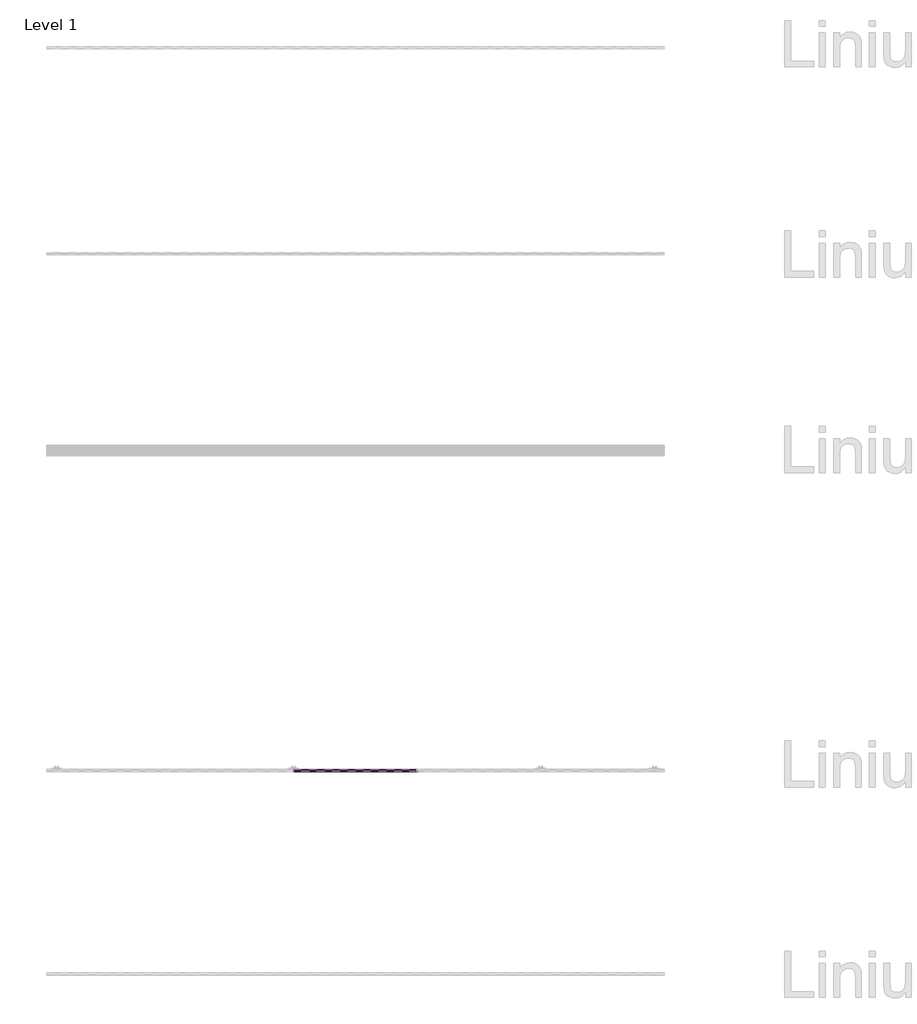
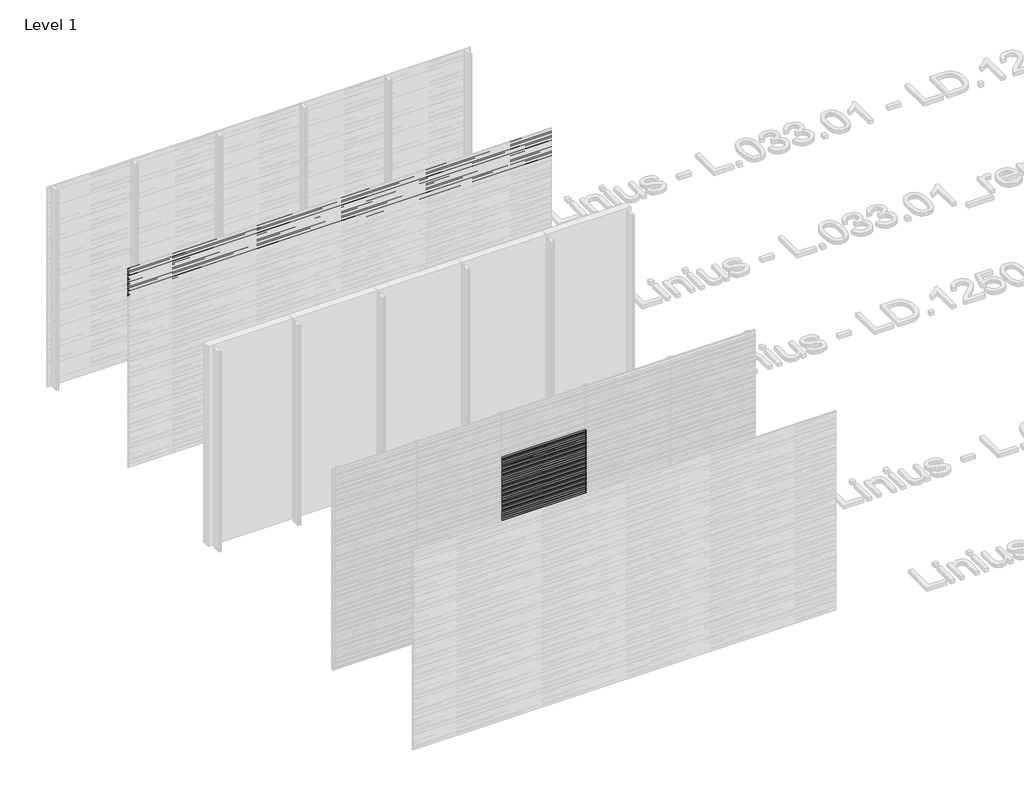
# One storey, part 15 of 507: 84 proxies.
"""IFC4 building model written with IfcOpenShell, lengths in millimetres."""

from ifc_helpers import new_model, si_unit, frame, origin, place, context, project, spatial, polyline, outline, extrude, element, save

model = new_model("IFC4")

# Units and contexts
model_context = context("Model", 3, world=origin())
ifc_project = project(units=[si_unit("LENGTHUNIT", "METRE", prefix="MILLI")], contexts=[model_context])

# Site, building, storey
site = spatial("IfcSite", under=ifc_project)
building = spatial("IfcBuilding", under=site)
storey = spatial("IfcBuildingStorey", under=building, Name="Level 1", Elevation=0.0)

# Proxies
placement = place(None, origin())
element("IfcBuildingElementProxy", 1, Name="Wall Sweeps", at=placement, inside=storey, context=model_context, shape_type="SweptSolid", body=[
    extrude(outline(polyline([(12003.4540136, 2973.0), (12003.4540136, 2959.5), (12002.2040136, 2960.2216933), (12002.2040136, 2972.2782281), (11983.0540136, 2983.3345698), (11983.0540136, 2997.0), (11984.3040136, 2997.0), (11984.3040136, 2984.0562577), (12003.4540136, 2973.0)])), frame((44966.6208097, 0.0, 0.0), z_axis=(1.0, 0.0, 0.0), x_axis=(0.0, 1.0, 0.0)), (0.0, 0.0, 1.0), 6000.0),
])
element("IfcBuildingElementProxy", 2, Name="Wall Sweeps", at=placement, inside=storey, context=model_context, shape_type="SweptSolid", body=[
    extrude(outline(polyline([(12003.4540136, 2939.7), (12003.4540136, 2926.2), (12002.2040136, 2926.9216933), (12002.2040136, 2938.9782281), (11983.0540136, 2950.0345698), (11983.0540136, 2963.7), (11984.3040136, 2963.7), (11984.3040136, 2950.7562577), (12003.4540136, 2939.7)])), frame((44966.6208097, 0.0, 0.0), z_axis=(1.0, 0.0, 0.0), x_axis=(0.0, 1.0, 0.0)), (0.0, 0.0, 1.0), 6000.0),
])
element("IfcBuildingElementProxy", 3, Name="Wall Sweeps", at=placement, inside=storey, context=model_context, shape_type="SweptSolid", body=[
    extrude(outline(polyline([(12003.4540136, 2906.4), (12003.4540136, 2892.9), (12002.2040136, 2893.6216933), (12002.2040136, 2905.6782281), (11983.0540136, 2916.7345698), (11983.0540136, 2930.4), (11984.3040136, 2930.4), (11984.3040136, 2917.4562577), (12003.4540136, 2906.4)])), frame((44966.6208097, 0.0, 0.0), z_axis=(1.0, 0.0, 0.0), x_axis=(0.0, 1.0, 0.0)), (0.0, 0.0, 1.0), 6000.0),
])
element("IfcBuildingElementProxy", 4, Name="Wall Sweeps", at=placement, inside=storey, context=model_context, shape_type="SweptSolid", body=[
    extrude(outline(polyline([(12003.4540136, 2873.1), (12003.4540136, 2859.6), (12002.2040136, 2860.3216933), (12002.2040136, 2872.3782281), (11983.0540136, 2883.4345698), (11983.0540136, 2897.1), (11984.3040136, 2897.1), (11984.3040136, 2884.1562577), (12003.4540136, 2873.1)])), frame((44966.6208097, 0.0, 0.0), z_axis=(1.0, 0.0, 0.0), x_axis=(0.0, 1.0, 0.0)), (0.0, 0.0, 1.0), 6000.0),
])
element("IfcBuildingElementProxy", 5, Name="Wall Sweeps", at=placement, inside=storey, context=model_context, shape_type="SweptSolid", body=[
    extrude(outline(polyline([(12003.4540136, 2839.8), (12003.4540136, 2826.3), (12002.2040136, 2827.0216933), (12002.2040136, 2839.0782281), (11983.0540136, 2850.1345698), (11983.0540136, 2863.8), (11984.3040136, 2863.8), (11984.3040136, 2850.8562577), (12003.4540136, 2839.8)])), frame((44966.6208097, 0.0, 0.0), z_axis=(1.0, 0.0, 0.0), x_axis=(0.0, 1.0, 0.0)), (0.0, 0.0, 1.0), 6000.0),
])
element("IfcBuildingElementProxy", 6, Name="Wall Sweeps", at=placement, inside=storey, context=model_context, shape_type="SweptSolid", body=[
    extrude(outline(polyline([(12003.4540136, 2806.5), (12003.4540136, 2793.0), (12002.2040136, 2793.7216933), (12002.2040136, 2805.7782281), (11983.0540136, 2816.8345698), (11983.0540136, 2830.5), (11984.3040136, 2830.5), (11984.3040136, 2817.5562577), (12003.4540136, 2806.5)])), frame((44966.6208097, 0.0, 0.0), z_axis=(1.0, 0.0, 0.0), x_axis=(0.0, 1.0, 0.0)), (0.0, 0.0, 1.0), 6000.0),
])
element("IfcBuildingElementProxy", 7, Name="Wall Sweeps", at=placement, inside=storey, context=model_context, shape_type="SweptSolid", body=[
    extrude(outline(polyline([(12003.4540136, 2773.2), (12003.4540136, 2759.7), (12002.2040136, 2760.4216933), (12002.2040136, 2772.4782281), (11983.0540136, 2783.5345698), (11983.0540136, 2797.2), (11984.3040136, 2797.2), (11984.3040136, 2784.2562577), (12003.4540136, 2773.2)])), frame((44966.6208097, 0.0, 0.0), z_axis=(1.0, 0.0, 0.0), x_axis=(0.0, 1.0, 0.0)), (0.0, 0.0, 1.0), 6000.0),
])
element("IfcBuildingElementProxy", 8, Name="Wall Sweeps", at=placement, inside=storey, context=model_context, shape_type="SweptSolid", body=[
    extrude(outline(polyline([(12003.4540136, 2739.9), (12003.4540136, 2726.4), (12002.2040136, 2727.1216933), (12002.2040136, 2739.1782281), (11983.0540136, 2750.2345698), (11983.0540136, 2763.9), (11984.3040136, 2763.9), (11984.3040136, 2750.9562577), (12003.4540136, 2739.9)])), frame((44966.6208097, 0.0, 0.0), z_axis=(1.0, 0.0, 0.0), x_axis=(0.0, 1.0, 0.0)), (0.0, 0.0, 1.0), 6000.0),
])
element("IfcBuildingElementProxy", 9, Name="Wall Sweeps", at=placement, inside=storey, context=model_context, shape_type="SweptSolid", body=[
    extrude(outline(polyline([(12003.4540136, 2706.6), (12003.4540136, 2693.1), (12002.2040136, 2693.8216933), (12002.2040136, 2705.8782281), (11983.0540136, 2716.9345698), (11983.0540136, 2730.6), (11984.3040136, 2730.6), (11984.3040136, 2717.6562577), (12003.4540136, 2706.6)])), frame((44966.6208097, 0.0, 0.0), z_axis=(1.0, 0.0, 0.0), x_axis=(0.0, 1.0, 0.0)), (0.0, 0.0, 1.0), 6000.0),
])
element("IfcBuildingElementProxy", 10, Name="Wall Sweeps", at=placement, inside=storey, context=model_context, shape_type="SweptSolid", body=[
    extrude(outline(polyline([(12003.4540136, 2673.3), (12003.4540136, 2659.8), (12002.2040136, 2660.5216933), (12002.2040136, 2672.5782281), (11983.0540136, 2683.6345698), (11983.0540136, 2697.3), (11984.3040136, 2697.3), (11984.3040136, 2684.3562577), (12003.4540136, 2673.3)])), frame((44966.6208097, 0.0, 0.0), z_axis=(1.0, 0.0, 0.0), x_axis=(0.0, 1.0, 0.0)), (0.0, 0.0, 1.0), 6000.0),
])
element("IfcBuildingElementProxy", 11, Name="Wall Sweeps", at=placement, inside=storey, context=model_context, shape_type="SweptSolid", body=[
    extrude(outline(polyline([(12003.4540136, 2640.0), (12003.4540136, 2626.5), (12002.2040136, 2627.2216933), (12002.2040136, 2639.2782281), (11983.0540136, 2650.3345698), (11983.0540136, 2664.0), (11984.3040136, 2664.0), (11984.3040136, 2651.0562577), (12003.4540136, 2640.0)])), frame((44966.6208097, 0.0, 0.0), z_axis=(1.0, 0.0, 0.0), x_axis=(0.0, 1.0, 0.0)), (0.0, 0.0, 1.0), 6000.0),
])
element("IfcBuildingElementProxy", 12, Name="Wall Sweeps", at=placement, inside=storey, context=model_context, shape_type="SweptSolid", body=[
    extrude(outline(polyline([(12003.4540136, 2606.7), (12003.4540136, 2593.2), (12002.2040136, 2593.9216933), (12002.2040136, 2605.9782281), (11983.0540136, 2617.0345698), (11983.0540136, 2630.7), (11984.3040136, 2630.7), (11984.3040136, 2617.7562577), (12003.4540136, 2606.7)])), frame((44966.6208097, 0.0, 0.0), z_axis=(1.0, 0.0, 0.0), x_axis=(0.0, 1.0, 0.0)), (0.0, 0.0, 1.0), 6000.0),
])
element("IfcBuildingElementProxy", 13, Name="Wall Sweeps", at=placement, inside=storey, context=model_context, shape_type="SweptSolid", body=[
    extrude(outline(polyline([(12003.4540136, 2573.4), (12003.4540136, 2559.9), (12002.2040136, 2560.6216933), (12002.2040136, 2572.6782281), (11983.0540136, 2583.7345698), (11983.0540136, 2597.4), (11984.3040136, 2597.4), (11984.3040136, 2584.4562577), (12003.4540136, 2573.4)])), frame((44966.6208097, 0.0, 0.0), z_axis=(1.0, 0.0, 0.0), x_axis=(0.0, 1.0, 0.0)), (0.0, 0.0, 1.0), 6000.0),
])
element("IfcBuildingElementProxy", 14, Name="Wall Sweeps", at=placement, inside=storey, context=model_context, shape_type="SweptSolid", body=[
    extrude(outline(polyline([(6962.6270068, 2340.3), (6981.7770068, 2351.3562577), (6981.7770068, 2364.3), (6983.0270068, 2364.3), (6983.0270068, 2350.6345698), (6963.8770068, 2339.5782281), (6963.8770068, 2327.5216933), (6962.6270068, 2326.8), (6962.6270068, 2340.3)])), frame((47366.6208097, 0.0, 0.0), z_axis=(1.0, 0.0, 0.0), x_axis=(0.0, 1.0, 0.0)), (0.0, 0.0, 1.0), 1199.9999999),
])
element("IfcBuildingElementProxy", 15, Name="Wall Sweeps", at=placement, inside=storey, context=model_context, shape_type="SweptSolid", body=[
    extrude(outline(polyline([(6962.6270068, 2307.0), (6981.7770068, 2318.0562577), (6981.7770068, 2331.0), (6983.0270068, 2331.0), (6983.0270068, 2317.3345698), (6963.8770068, 2306.2782281), (6963.8770068, 2294.2216933), (6962.6270068, 2293.5), (6962.6270068, 2307.0)])), frame((47366.6208097, 0.0, 0.0), z_axis=(1.0, 0.0, 0.0), x_axis=(0.0, 1.0, 0.0)), (0.0, 0.0, 1.0), 1199.9999999),
])
element("IfcBuildingElementProxy", 16, Name="Wall Sweeps", at=placement, inside=storey, context=model_context, shape_type="SweptSolid", body=[
    extrude(outline(polyline([(6962.6270068, 2273.7), (6981.7770068, 2284.7562577), (6981.7770068, 2297.7), (6983.0270068, 2297.7), (6983.0270068, 2284.0345698), (6963.8770068, 2272.9782281), (6963.8770068, 2260.9216933), (6962.6270068, 2260.2), (6962.6270068, 2273.7)])), frame((47366.6208097, 0.0, 0.0), z_axis=(1.0, 0.0, 0.0), x_axis=(0.0, 1.0, 0.0)), (0.0, 0.0, 1.0), 1199.9999999),
])
element("IfcBuildingElementProxy", 17, Name="Wall Sweeps", at=placement, inside=storey, context=model_context, shape_type="SweptSolid", body=[
    extrude(outline(polyline([(6962.6270068, 2240.4), (6981.7770068, 2251.4562577), (6981.7770068, 2264.4), (6983.0270068, 2264.4), (6983.0270068, 2250.7345698), (6963.8770068, 2239.6782281), (6963.8770068, 2227.6216933), (6962.6270068, 2226.9), (6962.6270068, 2240.4)])), frame((47366.6208097, 0.0, 0.0), z_axis=(1.0, 0.0, 0.0), x_axis=(0.0, 1.0, 0.0)), (0.0, 0.0, 1.0), 1199.9999999),
])
element("IfcBuildingElementProxy", 18, Name="Wall Sweeps", at=placement, inside=storey, context=model_context, shape_type="SweptSolid", body=[
    extrude(outline(polyline([(6962.6270068, 2207.1), (6981.7770068, 2218.1562577), (6981.7770068, 2231.1), (6983.0270068, 2231.1), (6983.0270068, 2217.4345698), (6963.8770068, 2206.3782281), (6963.8770068, 2194.3216933), (6962.6270068, 2193.6), (6962.6270068, 2207.1)])), frame((47366.6208097, 0.0, 0.0), z_axis=(1.0, 0.0, 0.0), x_axis=(0.0, 1.0, 0.0)), (0.0, 0.0, 1.0), 1199.9999999),
])
element("IfcBuildingElementProxy", 19, Name="Wall Sweeps", at=placement, inside=storey, context=model_context, shape_type="SweptSolid", body=[
    extrude(outline(polyline([(6962.6270068, 2173.8), (6981.7770068, 2184.8562577), (6981.7770068, 2197.8), (6983.0270068, 2197.8), (6983.0270068, 2184.1345698), (6963.8770068, 2173.0782281), (6963.8770068, 2161.0216933), (6962.6270068, 2160.3), (6962.6270068, 2173.8)])), frame((47366.6208097, 0.0, 0.0), z_axis=(1.0, 0.0, 0.0), x_axis=(0.0, 1.0, 0.0)), (0.0, 0.0, 1.0), 1199.9999999),
])
element("IfcBuildingElementProxy", 20, Name="Wall Sweeps", at=placement, inside=storey, context=model_context, shape_type="SweptSolid", body=[
    extrude(outline(polyline([(6962.6270068, 2140.5), (6981.7770068, 2151.5562577), (6981.7770068, 2164.5), (6983.0270068, 2164.5), (6983.0270068, 2150.8345698), (6963.8770068, 2139.7782281), (6963.8770068, 2127.7216933), (6962.6270068, 2127.0), (6962.6270068, 2140.5)])), frame((47366.6208097, 0.0, 0.0), z_axis=(1.0, 0.0, 0.0), x_axis=(0.0, 1.0, 0.0)), (0.0, 0.0, 1.0), 1199.9999999),
])
element("IfcBuildingElementProxy", 21, Name="Wall Sweeps", at=placement, inside=storey, context=model_context, shape_type="SweptSolid", body=[
    extrude(outline(polyline([(6962.6270068, 2107.2), (6981.7770068, 2118.2562577), (6981.7770068, 2131.2), (6983.0270068, 2131.2), (6983.0270068, 2117.5345698), (6963.8770068, 2106.4782281), (6963.8770068, 2094.4216933), (6962.6270068, 2093.7), (6962.6270068, 2107.2)])), frame((47366.6208097, 0.0, 0.0), z_axis=(1.0, 0.0, 0.0), x_axis=(0.0, 1.0, 0.0)), (0.0, 0.0, 1.0), 1199.9999999),
])
element("IfcBuildingElementProxy", 22, Name="Wall Sweeps", at=placement, inside=storey, context=model_context, shape_type="SweptSolid", body=[
    extrude(outline(polyline([(6962.6270068, 2073.9), (6981.7770068, 2084.9562577), (6981.7770068, 2097.9), (6983.0270068, 2097.9), (6983.0270068, 2084.2345698), (6963.8770068, 2073.1782281), (6963.8770068, 2061.1216933), (6962.6270068, 2060.4), (6962.6270068, 2073.9)])), frame((47366.6208097, 0.0, 0.0), z_axis=(1.0, 0.0, 0.0), x_axis=(0.0, 1.0, 0.0)), (0.0, 0.0, 1.0), 1199.9999999),
])
element("IfcBuildingElementProxy", 23, Name="Wall Sweeps", at=placement, inside=storey, context=model_context, shape_type="SweptSolid", body=[
    extrude(outline(polyline([(6962.6270068, 2040.6), (6981.7770068, 2051.6562577), (6981.7770068, 2064.6), (6983.0270068, 2064.6), (6983.0270068, 2050.9345698), (6963.8770068, 2039.8782281), (6963.8770068, 2027.8216933), (6962.6270068, 2027.1), (6962.6270068, 2040.6)])), frame((47366.6208097, 0.0, 0.0), z_axis=(1.0, 0.0, 0.0), x_axis=(0.0, 1.0, 0.0)), (0.0, 0.0, 1.0), 1199.9999999),
])
element("IfcBuildingElementProxy", 24, Name="Wall Sweeps", at=placement, inside=storey, context=model_context, shape_type="SweptSolid", body=[
    extrude(outline(polyline([(6962.6270068, 2007.3), (6981.7770068, 2018.3562577), (6981.7770068, 2031.3), (6983.0270068, 2031.3), (6983.0270068, 2017.6345698), (6963.8770068, 2006.5782281), (6963.8770068, 1994.5216933), (6962.6270068, 1993.8), (6962.6270068, 2007.3)])), frame((47366.6208097, 0.0, 0.0), z_axis=(1.0, 0.0, 0.0), x_axis=(0.0, 1.0, 0.0)), (0.0, 0.0, 1.0), 1199.9999999),
])
element("IfcBuildingElementProxy", 25, Name="Wall Sweeps", at=placement, inside=storey, context=model_context, shape_type="SweptSolid", body=[
    extrude(outline(polyline([(6962.6270068, 1974.0), (6981.7770068, 1985.0562577), (6981.7770068, 1998.0), (6983.0270068, 1998.0), (6983.0270068, 1984.3345698), (6963.8770068, 1973.2782281), (6963.8770068, 1961.2216933), (6962.6270068, 1960.5), (6962.6270068, 1974.0)])), frame((47366.6208097, 0.0, 0.0), z_axis=(1.0, 0.0, 0.0), x_axis=(0.0, 1.0, 0.0)), (0.0, 0.0, 1.0), 1199.9999999),
])
element("IfcBuildingElementProxy", 26, Name="Wall Sweeps", at=placement, inside=storey, context=model_context, shape_type="SweptSolid", body=[
    extrude(outline(polyline([(6962.6270068, 1940.7), (6981.7770068, 1951.7562577), (6981.7770068, 1964.7), (6983.0270068, 1964.7), (6983.0270068, 1951.0345698), (6963.8770068, 1939.9782281), (6963.8770068, 1927.9216933), (6962.6270068, 1927.2), (6962.6270068, 1940.7)])), frame((47366.6208097, 0.0, 0.0), z_axis=(1.0, 0.0, 0.0), x_axis=(0.0, 1.0, 0.0)), (0.0, 0.0, 1.0), 1199.9999999),
])
element("IfcBuildingElementProxy", 27, Name="Wall Sweeps", at=placement, inside=storey, context=model_context, shape_type="SweptSolid", body=[
    extrude(outline(polyline([(6962.6270068, 1907.4), (6981.7770068, 1918.4562577), (6981.7770068, 1931.4), (6983.0270068, 1931.4), (6983.0270068, 1917.7345698), (6963.8770068, 1906.6782281), (6963.8770068, 1894.6216933), (6962.6270068, 1893.9), (6962.6270068, 1907.4)])), frame((47366.6208097, 0.0, 0.0), z_axis=(1.0, 0.0, 0.0), x_axis=(0.0, 1.0, 0.0)), (0.0, 0.0, 1.0), 1199.9999999),
])
element("IfcBuildingElementProxy", 28, Name="Wall Sweeps", at=placement, inside=storey, context=model_context, shape_type="SweptSolid", body=[
    extrude(outline(polyline([(6962.6270068, 1874.1), (6981.7770068, 1885.1562577), (6981.7770068, 1898.1), (6983.0270068, 1898.1), (6983.0270068, 1884.4345698), (6963.8770068, 1873.3782281), (6963.8770068, 1861.3216933), (6962.6270068, 1860.6), (6962.6270068, 1874.1)])), frame((47366.6208097, 0.0, 0.0), z_axis=(1.0, 0.0, 0.0), x_axis=(0.0, 1.0, 0.0)), (0.0, 0.0, 1.0), 1199.9999999),
])
element("IfcBuildingElementProxy", 29, Name="Wall Sweeps", at=placement, inside=storey, context=model_context, shape_type="SweptSolid", body=[
    extrude(outline(polyline([(6962.6270068, 1840.8), (6981.7770068, 1851.8562577), (6981.7770068, 1864.8), (6983.0270068, 1864.8), (6983.0270068, 1851.1345698), (6963.8770068, 1840.0782281), (6963.8770068, 1828.0216933), (6962.6270068, 1827.3), (6962.6270068, 1840.8)])), frame((47366.6208097, 0.0, 0.0), z_axis=(1.0, 0.0, 0.0), x_axis=(0.0, 1.0, 0.0)), (0.0, 0.0, 1.0), 1199.9999999),
])
element("IfcBuildingElementProxy", 30, Name="Wall Sweeps", at=placement, inside=storey, context=model_context, shape_type="SweptSolid", body=[
    extrude(outline(polyline([(6962.6270068, 1807.5), (6981.7770068, 1818.5562577), (6981.7770068, 1831.5), (6983.0270068, 1831.5), (6983.0270068, 1817.8345698), (6963.8770068, 1806.7782281), (6963.8770068, 1794.7216933), (6962.6270068, 1794.0), (6962.6270068, 1807.5)])), frame((47366.6208097, 0.0, 0.0), z_axis=(1.0, 0.0, 0.0), x_axis=(0.0, 1.0, 0.0)), (0.0, 0.0, 1.0), 1199.9999999),
])
element("IfcBuildingElementProxy", 31, Name="Wall Sweeps", at=placement, inside=storey, context=model_context, shape_type="SweptSolid", body=[
    extrude(outline(polyline([(6962.6270068, 1774.2), (6981.7770068, 1785.2562577), (6981.7770068, 1798.2), (6983.0270068, 1798.2), (6983.0270068, 1784.5345698), (6963.8770068, 1773.4782281), (6963.8770068, 1761.4216933), (6962.6270068, 1760.7), (6962.6270068, 1774.2)])), frame((47366.6208097, 0.0, 0.0), z_axis=(1.0, 0.0, 0.0), x_axis=(0.0, 1.0, 0.0)), (0.0, 0.0, 1.0), 1199.9999999),
])
element("IfcBuildingElementProxy", 32, Name="Wall Sweeps", at=placement, inside=storey, context=model_context, shape_type="SweptSolid", body=[
    extrude(outline(polyline([(6962.6270068, 1740.9), (6981.7770068, 1751.9562577), (6981.7770068, 1764.9), (6983.0270068, 1764.9), (6983.0270068, 1751.2345698), (6963.8770068, 1740.1782281), (6963.8770068, 1728.1216933), (6962.6270068, 1727.4), (6962.6270068, 1740.9)])), frame((47366.6208097, 0.0, 0.0), z_axis=(1.0, 0.0, 0.0), x_axis=(0.0, 1.0, 0.0)), (0.0, 0.0, 1.0), 1199.9999999),
])
element("IfcBuildingElementProxy", 33, Name="Wall Sweeps", at=placement, inside=storey, context=model_context, shape_type="SweptSolid", body=[
    extrude(outline(polyline([(6962.6270068, 1707.6), (6981.7770068, 1718.6562577), (6981.7770068, 1731.6), (6983.0270068, 1731.6), (6983.0270068, 1717.9345698), (6963.8770068, 1706.8782281), (6963.8770068, 1694.8216933), (6962.6270068, 1694.1), (6962.6270068, 1707.6)])), frame((47366.6208097, 0.0, 0.0), z_axis=(1.0, 0.0, 0.0), x_axis=(0.0, 1.0, 0.0)), (0.0, 0.0, 1.0), 1199.9999999),
])
element("IfcBuildingElementProxy", 34, Name="Wall Sweeps", at=placement, inside=storey, context=model_context, shape_type="SweptSolid", body=[
    extrude(outline(polyline([(6962.6270068, 1674.3), (6981.7770068, 1685.3562577), (6981.7770068, 1698.3), (6983.0270068, 1698.3), (6983.0270068, 1684.6345698), (6963.8770068, 1673.5782281), (6963.8770068, 1661.5216933), (6962.6270068, 1660.8), (6962.6270068, 1674.3)])), frame((47366.6208097, 0.0, 0.0), z_axis=(1.0, 0.0, 0.0), x_axis=(0.0, 1.0, 0.0)), (0.0, 0.0, 1.0), 1199.9999999),
])
element("IfcBuildingElementProxy", 35, Name="Wall Sweeps", at=placement, inside=storey, context=model_context, shape_type="SweptSolid", body=[
    extrude(outline(polyline([(6962.6270068, 1641.0), (6981.7770068, 1652.0562577), (6981.7770068, 1665.0), (6983.0270068, 1665.0), (6983.0270068, 1651.3345698), (6963.8770068, 1640.2782281), (6963.8770068, 1628.2216933), (6962.6270068, 1627.5), (6962.6270068, 1641.0)])), frame((47366.6208097, 0.0, 0.0), z_axis=(1.0, 0.0, 0.0), x_axis=(0.0, 1.0, 0.0)), (0.0, 0.0, 1.0), 1199.9999999),
])
element("IfcBuildingElementProxy", 36, Name="Wall Sweeps", at=placement, inside=storey, context=model_context, shape_type="SweptSolid", body=[
    extrude(outline(polyline([(6962.6270068, 1607.7), (6981.7770068, 1618.7562577), (6981.7770068, 1631.7), (6983.0270068, 1631.7), (6983.0270068, 1618.0345698), (6963.8770068, 1606.9782281), (6963.8770068, 1594.9216933), (6962.6270068, 1594.2), (6962.6270068, 1607.7)])), frame((47366.6208097, 0.0, 0.0), z_axis=(1.0, 0.0, 0.0), x_axis=(0.0, 1.0, 0.0)), (0.0, 0.0, 1.0), 1199.9999999),
])
element("IfcBuildingElementProxy", 37, Name="Wall Sweeps", at=placement, inside=storey, context=model_context, shape_type="SweptSolid", body=[
    extrude(outline(polyline([(6962.6270068, 1574.4), (6981.7770068, 1585.4562577), (6981.7770068, 1598.4), (6983.0270068, 1598.4), (6983.0270068, 1584.7345698), (6963.8770068, 1573.6782281), (6963.8770068, 1561.6216933), (6962.6270068, 1560.9), (6962.6270068, 1574.4)])), frame((47366.6208097, 0.0, 0.0), z_axis=(1.0, 0.0, 0.0), x_axis=(0.0, 1.0, 0.0)), (0.0, 0.0, 1.0), 1199.9999999),
])
element("IfcBuildingElementProxy", 38, Name="Wall Sweeps", at=placement, inside=storey, context=model_context, shape_type="SweptSolid", body=[
    extrude(outline(polyline([(6962.6270068, 1541.1), (6981.7770068, 1552.1562577), (6981.7770068, 1565.1), (6983.0270068, 1565.1), (6983.0270068, 1551.4345698), (6963.8770068, 1540.3782281), (6963.8770068, 1528.3216933), (6962.6270068, 1527.6), (6962.6270068, 1541.1)])), frame((47366.6208097, 0.0, 0.0), z_axis=(1.0, 0.0, 0.0), x_axis=(0.0, 1.0, 0.0)), (0.0, 0.0, 1.0), 1199.9999999),
])
element("IfcBuildingElementProxy", 39, Name="Wall Sweeps", at=placement, inside=storey, context=model_context, shape_type="SweptSolid", body=[
    extrude(outline(polyline([(6962.6270068, 1507.8), (6981.7770068, 1518.8562577), (6981.7770068, 1531.8), (6983.0270068, 1531.8), (6983.0270068, 1518.1345698), (6963.8770068, 1507.0782281), (6963.8770068, 1495.0216933), (6962.6270068, 1494.3), (6962.6270068, 1507.8)])), frame((47366.6208097, 0.0, 0.0), z_axis=(1.0, 0.0, 0.0), x_axis=(0.0, 1.0, 0.0)), (0.0, 0.0, 1.0), 1199.9999999),
])
element("IfcBuildingElementProxy", 40, Name="Wall Sweeps", at=placement, inside=storey, context=model_context, shape_type="SweptSolid", body=[
    extrude(outline(polyline([(6962.6270068, 1474.5), (6981.7770068, 1485.5562577), (6981.7770068, 1498.5), (6983.0270068, 1498.5), (6983.0270068, 1484.8345698), (6963.8770068, 1473.7782281), (6963.8770068, 1461.7216933), (6962.6270068, 1461.0), (6962.6270068, 1474.5)])), frame((47366.6208097, 0.0, 0.0), z_axis=(1.0, 0.0, 0.0), x_axis=(0.0, 1.0, 0.0)), (0.0, 0.0, 1.0), 1199.9999999),
])
element("IfcBuildingElementProxy", 41, Name="Wall Sweeps", at=placement, inside=storey, context=model_context, shape_type="SweptSolid", body=[
    extrude(outline(polyline([(6962.6270068, 1441.2), (6981.7770068, 1452.2562577), (6981.7770068, 1465.2), (6983.0270068, 1465.2), (6983.0270068, 1451.5345698), (6963.8770068, 1440.4782281), (6963.8770068, 1428.4216933), (6962.6270068, 1427.7), (6962.6270068, 1441.2)])), frame((47366.6208097, 0.0, 0.0), z_axis=(1.0, 0.0, 0.0), x_axis=(0.0, 1.0, 0.0)), (0.0, 0.0, 1.0), 1199.9999999),
])
element("IfcBuildingElementProxy", 42, Name="Wall Sweeps", at=placement, inside=storey, context=model_context, shape_type="SweptSolid", body=[
    extrude(outline(polyline([(6962.6270068, 1407.9), (6981.7770068, 1418.9562577), (6981.7770068, 1431.9), (6983.0270068, 1431.9), (6983.0270068, 1418.2345698), (6963.8770068, 1407.1782281), (6963.8770068, 1395.1216933), (6962.6270068, 1394.4), (6962.6270068, 1407.9)])), frame((47366.6208097, 0.0, 0.0), z_axis=(1.0, 0.0, 0.0), x_axis=(0.0, 1.0, 0.0)), (0.0, 0.0, 1.0), 1199.9999999),
])
element("IfcBuildingElementProxy", 43, Name="Wall Sweeps", at=placement, inside=storey, context=model_context, shape_type="SweptSolid", body=[
    extrude(outline(polyline([(6962.6270068, 1374.6), (6981.7770068, 1385.6562577), (6981.7770068, 1398.6), (6983.0270068, 1398.6), (6983.0270068, 1384.9345698), (6963.8770068, 1373.8782281), (6963.8770068, 1361.8216933), (6962.6270068, 1361.1), (6962.6270068, 1374.6)])), frame((47366.6208097, 0.0, 0.0), z_axis=(1.0, 0.0, 0.0), x_axis=(0.0, 1.0, 0.0)), (0.0, 0.0, 1.0), 1199.9999999),
])
element("IfcBuildingElementProxy", 44, Name="Wall Sweeps", at=placement, inside=storey, context=model_context, shape_type="SweptSolid", body=[
    extrude(outline(polyline([(6962.6270068, 1341.3), (6981.7770068, 1352.3562577), (6981.7770068, 1365.3), (6983.0270068, 1365.3), (6983.0270068, 1351.6345698), (6963.8770068, 1340.5782281), (6963.8770068, 1328.5216933), (6962.6270068, 1327.8), (6962.6270068, 1341.3)])), frame((47366.6208097, 0.0, 0.0), z_axis=(1.0, 0.0, 0.0), x_axis=(0.0, 1.0, 0.0)), (0.0, 0.0, 1.0), 1199.9999999),
])
element("IfcBuildingElementProxy", 45, Name="Wall Sweeps", at=placement, inside=storey, context=model_context, shape_type="SweptSolid", body=[
    extrude(outline(polyline([(6962.6270068, 1308.0), (6981.7770068, 1319.0562577), (6981.7770068, 1332.0), (6983.0270068, 1332.0), (6983.0270068, 1318.3345698), (6963.8770068, 1307.2782281), (6963.8770068, 1295.2216933), (6962.6270068, 1294.5), (6962.6270068, 1308.0)])), frame((47366.6208097, 0.0, 0.0), z_axis=(1.0, 0.0, 0.0), x_axis=(0.0, 1.0, 0.0)), (0.0, 0.0, 1.0), 1199.9999999),
])
element("IfcBuildingElementProxy", 46, Name="Wall Sweeps", at=placement, inside=storey, context=model_context, shape_type="SweptSolid", body=[
    extrude(outline(polyline([(6962.6270068, 1274.7), (6981.7770068, 1285.7562577), (6981.7770068, 1298.7), (6983.0270068, 1298.7), (6983.0270068, 1285.0345698), (6963.8770068, 1273.9782281), (6963.8770068, 1261.9216933), (6962.6270068, 1261.2), (6962.6270068, 1274.7)])), frame((47366.6208097, 0.0, 0.0), z_axis=(1.0, 0.0, 0.0), x_axis=(0.0, 1.0, 0.0)), (0.0, 0.0, 1.0), 1199.9999999),
])
element("IfcBuildingElementProxy", 47, Name="Wall Sweeps", at=placement, inside=storey, context=model_context, shape_type="SweptSolid", body=[
    extrude(outline(polyline([(6962.6270068, 1241.4), (6981.7770068, 1252.4562577), (6981.7770068, 1265.4), (6983.0270068, 1265.4), (6983.0270068, 1251.7345698), (6963.8770068, 1240.6782281), (6963.8770068, 1228.6216933), (6962.6270068, 1227.9), (6962.6270068, 1241.4)])), frame((47366.6208097, 0.0, 0.0), z_axis=(1.0, 0.0, 0.0), x_axis=(0.0, 1.0, 0.0)), (0.0, 0.0, 1.0), 1199.9999999),
])
element("IfcBuildingElementProxy", 48, Name="Wall Sweeps", at=placement, inside=storey, context=model_context, shape_type="SweptSolid", body=[
    extrude(outline(polyline([(6962.6270068, 1208.1), (6981.7770068, 1219.1562577), (6981.7770068, 1232.1), (6983.0270068, 1232.1), (6983.0270068, 1218.4345698), (6963.8770068, 1207.3782281), (6963.8770068, 1195.3216933), (6962.6270068, 1194.6), (6962.6270068, 1208.1)])), frame((47366.6208097, 0.0, 0.0), z_axis=(1.0, 0.0, 0.0), x_axis=(0.0, 1.0, 0.0)), (0.0, 0.0, 1.0), 1199.9999999),
])
element("IfcBuildingElementProxy", 49, Name="Wall Sweeps", at=placement, inside=storey, context=model_context, shape_type="SweptSolid", body=[
    extrude(outline(polyline([(6962.6270068, 1174.8), (6981.7770068, 1185.8562577), (6981.7770068, 1198.8), (6983.0270068, 1198.8), (6983.0270068, 1185.1345698), (6963.8770068, 1174.0782281), (6963.8770068, 1162.0216933), (6962.6270068, 1161.3), (6962.6270068, 1174.8)])), frame((47366.6208097, 0.0, 0.0), z_axis=(1.0, 0.0, 0.0), x_axis=(0.0, 1.0, 0.0)), (0.0, 0.0, 1.0), 1199.9999999),
])
element("IfcBuildingElementProxy", 50, Name="Wall Sweeps", at=placement, inside=storey, context=model_context, shape_type="SweptSolid", body=[
    extrude(outline(polyline([(6962.6270068, 1141.5), (6981.7770068, 1152.5562577), (6981.7770068, 1165.5), (6983.0270068, 1165.5), (6983.0270068, 1151.8345698), (6963.8770068, 1140.7782281), (6963.8770068, 1128.7216933), (6962.6270068, 1128.0), (6962.6270068, 1141.5)])), frame((47366.6208097, 0.0, 0.0), z_axis=(1.0, 0.0, 0.0), x_axis=(0.0, 1.0, 0.0)), (0.0, 0.0, 1.0), 1199.9999999),
])
element("IfcBuildingElementProxy", 51, Name="Wall Sweeps", at=placement, inside=storey, context=model_context, shape_type="SweptSolid", body=[
    extrude(outline(polyline([(6962.6270068, 1108.2), (6981.7770068, 1119.2562577), (6981.7770068, 1132.2), (6983.0270068, 1132.2), (6983.0270068, 1118.5345698), (6963.8770068, 1107.4782281), (6963.8770068, 1095.4216933), (6962.6270068, 1094.7), (6962.6270068, 1108.2)])), frame((47366.6208097, 0.0, 0.0), z_axis=(1.0, 0.0, 0.0), x_axis=(0.0, 1.0, 0.0)), (0.0, 0.0, 1.0), 1199.9999999),
])
element("IfcBuildingElementProxy", 52, Name="Wall Sweeps", at=placement, inside=storey, context=model_context, shape_type="SweptSolid", body=[
    extrude(outline(polyline([(6962.6270068, 1074.9), (6981.7770068, 1085.9562577), (6981.7770068, 1098.9), (6983.0270068, 1098.9), (6983.0270068, 1085.2345698), (6963.8770068, 1074.1782281), (6963.8770068, 1062.1216933), (6962.6270068, 1061.4), (6962.6270068, 1074.9)])), frame((47366.6208097, 0.0, 0.0), z_axis=(1.0, 0.0, 0.0), x_axis=(0.0, 1.0, 0.0)), (0.0, 0.0, 1.0), 1199.9999999),
])
element("IfcBuildingElementProxy", 53, Name="Wall Sweeps", at=placement, inside=storey, context=model_context, shape_type="SweptSolid", body=[
    extrude(outline(polyline([(6962.6270068, 1041.6), (6981.7770068, 1052.6562577), (6981.7770068, 1065.6), (6983.0270068, 1065.6), (6983.0270068, 1051.9345698), (6963.8770068, 1040.8782281), (6963.8770068, 1028.8216933), (6962.6270068, 1028.1), (6962.6270068, 1041.6)])), frame((47366.6208097, 0.0, 0.0), z_axis=(1.0, 0.0, 0.0), x_axis=(0.0, 1.0, 0.0)), (0.0, 0.0, 1.0), 1199.9999999),
])
element("IfcBuildingElementProxy", 54, Name="Wall Sweeps", at=placement, inside=storey, context=model_context, shape_type="SweptSolid", body=[
    extrude(outline(polyline([(6962.6270068, 1008.3), (6981.7770068, 1019.3562577), (6981.7770068, 1032.3), (6983.0270068, 1032.3), (6983.0270068, 1018.6345698), (6963.8770068, 1007.5782281), (6963.8770068, 995.5216933), (6962.6270068, 994.8), (6962.6270068, 1008.3)])), frame((47366.6208097, 0.0, 0.0), z_axis=(1.0, 0.0, 0.0), x_axis=(0.0, 1.0, 0.0)), (0.0, 0.0, 1.0), 1199.9999999),
])
element("IfcBuildingElementProxy", 55, Name="Wall Sweeps", at=placement, inside=storey, context=model_context, shape_type="SweptSolid", body=[
    extrude(outline(polyline([(6962.6270068, 975.0), (6981.7770068, 986.0562577), (6981.7770068, 999.0), (6983.0270068, 999.0), (6983.0270068, 985.3345698), (6963.8770068, 974.2782281), (6963.8770068, 962.2216933), (6962.6270068, 961.5), (6962.6270068, 975.0)])), frame((47366.6208097, 0.0, 0.0), z_axis=(1.0, 0.0, 0.0), x_axis=(0.0, 1.0, 0.0)), (0.0, 0.0, 1.0), 1199.9999999),
])
element("IfcBuildingElementProxy", 56, Name="Wall Sweeps", at=placement, inside=storey, context=model_context, shape_type="SweptSolid", body=[
    extrude(outline(polyline([(6962.6270068, 941.7), (6981.7770068, 952.7562577), (6981.7770068, 965.7), (6983.0270068, 965.7), (6983.0270068, 952.0345698), (6963.8770068, 940.9782281), (6963.8770068, 928.9216933), (6962.6270068, 928.2), (6962.6270068, 941.7)])), frame((47366.6208097, 0.0, 0.0), z_axis=(1.0, 0.0, 0.0), x_axis=(0.0, 1.0, 0.0)), (0.0, 0.0, 1.0), 1199.9999999),
])
element("IfcBuildingElementProxy", 57, Name="Wall Sweeps", at=placement, inside=storey, context=model_context, shape_type="SweptSolid", body=[
    extrude(outline(polyline([(6962.6270068, 908.4), (6981.7770068, 919.4562577), (6981.7770068, 932.4), (6983.0270068, 932.4), (6983.0270068, 918.7345698), (6963.8770068, 907.6782281), (6963.8770068, 895.6216933), (6962.6270068, 894.9), (6962.6270068, 908.4)])), frame((47366.6208097, 0.0, 0.0), z_axis=(1.0, 0.0, 0.0), x_axis=(0.0, 1.0, 0.0)), (0.0, 0.0, 1.0), 1199.9999999),
])
element("IfcBuildingElementProxy", 58, Name="Wall Sweeps", at=placement, inside=storey, context=model_context, shape_type="SweptSolid", body=[
    extrude(outline(polyline([(6962.6270068, 875.1), (6981.7770068, 886.1562577), (6981.7770068, 899.1), (6983.0270068, 899.1), (6983.0270068, 885.4345698), (6963.8770068, 874.3782281), (6963.8770068, 862.3216933), (6962.6270068, 861.6), (6962.6270068, 875.1)])), frame((47366.6208097, 0.0, 0.0), z_axis=(1.0, 0.0, 0.0), x_axis=(0.0, 1.0, 0.0)), (0.0, 0.0, 1.0), 1199.9999999),
])
element("IfcBuildingElementProxy", 59, Name="Wall Sweeps", at=placement, inside=storey, context=model_context, shape_type="SweptSolid", body=[
    extrude(outline(polyline([(6962.6270068, 841.8), (6981.7770068, 852.8562577), (6981.7770068, 865.8), (6983.0270068, 865.8), (6983.0270068, 852.1345698), (6963.8770068, 841.0782281), (6963.8770068, 829.0216933), (6962.6270068, 828.3), (6962.6270068, 841.8)])), frame((47366.6208097, 0.0, 0.0), z_axis=(1.0, 0.0, 0.0), x_axis=(0.0, 1.0, 0.0)), (0.0, 0.0, 1.0), 1199.9999999),
])
element("IfcBuildingElementProxy", 60, Name="Wall Sweeps", at=placement, inside=storey, context=model_context, shape_type="SweptSolid", body=[
    extrude(outline(polyline([(6962.6270068, 808.5), (6981.7770068, 819.5562577), (6981.7770068, 832.5), (6983.0270068, 832.5), (6983.0270068, 818.8345698), (6963.8770068, 807.7782281), (6963.8770068, 795.7216933), (6962.6270068, 795.0), (6962.6270068, 808.5)])), frame((47366.6208097, 0.0, 0.0), z_axis=(1.0, 0.0, 0.0), x_axis=(0.0, 1.0, 0.0)), (0.0, 0.0, 1.0), 1199.9999999),
])
element("IfcBuildingElementProxy", 61, Name="Wall Sweeps", at=placement, inside=storey, context=model_context, shape_type="SweptSolid", body=[
    extrude(outline(polyline([(6962.6270068, 775.2), (6981.7770068, 786.2562577), (6981.7770068, 799.2), (6983.0270068, 799.2), (6983.0270068, 785.5345698), (6963.8770068, 774.4782281), (6963.8770068, 762.4216933), (6962.6270068, 761.7), (6962.6270068, 775.2)])), frame((47366.6208097, 0.0, 0.0), z_axis=(1.0, 0.0, 0.0), x_axis=(0.0, 1.0, 0.0)), (0.0, 0.0, 1.0), 1199.9999999),
])
element("IfcBuildingElementProxy", 62, Name="Wall Sweeps", at=placement, inside=storey, context=model_context, shape_type="SweptSolid", body=[
    extrude(outline(polyline([(6962.6270068, 741.9), (6981.7770068, 752.9562577), (6981.7770068, 765.9), (6983.0270068, 765.9), (6983.0270068, 752.2345698), (6963.8770068, 741.1782281), (6963.8770068, 729.1216933), (6962.6270068, 728.4), (6962.6270068, 741.9)])), frame((47366.6208097, 0.0, 0.0), z_axis=(1.0, 0.0, 0.0), x_axis=(0.0, 1.0, 0.0)), (0.0, 0.0, 1.0), 1199.9999999),
])
element("IfcBuildingElementProxy", 63, Name="Wall Sweeps", at=placement, inside=storey, context=model_context, shape_type="SweptSolid", body=[
    extrude(outline(polyline([(6962.6270068, 708.6), (6981.7770068, 719.6562577), (6981.7770068, 732.6), (6983.0270068, 732.6), (6983.0270068, 718.9345698), (6963.8770068, 707.8782281), (6963.8770068, 695.8216933), (6962.6270068, 695.1), (6962.6270068, 708.6)])), frame((47366.6208097, 0.0, 0.0), z_axis=(1.0, 0.0, 0.0), x_axis=(0.0, 1.0, 0.0)), (0.0, 0.0, 1.0), 1199.9999999),
])
element("IfcBuildingElementProxy", 64, Name="Wall Sweeps", at=placement, inside=storey, context=model_context, shape_type="SweptSolid", body=[
    extrude(outline(polyline([(6962.6270068, 675.3), (6981.7770068, 686.3562577), (6981.7770068, 699.3), (6983.0270068, 699.3), (6983.0270068, 685.6345698), (6963.8770068, 674.5782281), (6963.8770068, 662.5216933), (6962.6270068, 661.8), (6962.6270068, 675.3)])), frame((47366.6208097, 0.0, 0.0), z_axis=(1.0, 0.0, 0.0), x_axis=(0.0, 1.0, 0.0)), (0.0, 0.0, 1.0), 1199.9999999),
])
element("IfcBuildingElementProxy", 65, Name="Wall Sweeps", at=placement, inside=storey, context=model_context, shape_type="SweptSolid", body=[
    extrude(outline(polyline([(6962.6270068, 642.0), (6981.7770068, 653.0562577), (6981.7770068, 666.0), (6983.0270068, 666.0), (6983.0270068, 652.3345698), (6963.8770068, 641.2782281), (6963.8770068, 629.2216933), (6962.6270068, 628.5), (6962.6270068, 642.0)])), frame((47366.6208097, 0.0, 0.0), z_axis=(1.0, 0.0, 0.0), x_axis=(0.0, 1.0, 0.0)), (0.0, 0.0, 1.0), 1199.9999999),
])
element("IfcBuildingElementProxy", 66, Name="Wall Sweeps", at=placement, inside=storey, context=model_context, shape_type="SweptSolid", body=[
    extrude(outline(polyline([(6962.6270068, 608.7), (6981.7770068, 619.7562577), (6981.7770068, 632.7), (6983.0270068, 632.7), (6983.0270068, 619.0345698), (6963.8770068, 607.9782281), (6963.8770068, 595.9216933), (6962.6270068, 595.2), (6962.6270068, 608.7)])), frame((47366.6208097, 0.0, 0.0), z_axis=(1.0, 0.0, 0.0), x_axis=(0.0, 1.0, 0.0)), (0.0, 0.0, 1.0), 1199.9999999),
])
element("IfcBuildingElementProxy", 67, Name="Wall Sweeps", at=placement, inside=storey, context=model_context, shape_type="SweptSolid", body=[
    extrude(outline(polyline([(6962.6270068, 575.4), (6981.7770068, 586.4562577), (6981.7770068, 599.4), (6983.0270068, 599.4), (6983.0270068, 585.7345698), (6963.8770068, 574.6782281), (6963.8770068, 562.6216933), (6962.6270068, 561.9), (6962.6270068, 575.4)])), frame((47366.6208097, 0.0, 0.0), z_axis=(1.0, 0.0, 0.0), x_axis=(0.0, 1.0, 0.0)), (0.0, 0.0, 1.0), 1199.9999999),
])
element("IfcBuildingElementProxy", 68, Name="Wall Sweeps", at=placement, inside=storey, context=model_context, shape_type="SweptSolid", body=[
    extrude(outline(polyline([(6962.6270068, 542.1), (6981.7770068, 553.1562577), (6981.7770068, 566.1), (6983.0270068, 566.1), (6983.0270068, 552.4345698), (6963.8770068, 541.3782281), (6963.8770068, 529.3216933), (6962.6270068, 528.6), (6962.6270068, 542.1)])), frame((47366.6208097, 0.0, 0.0), z_axis=(1.0, 0.0, 0.0), x_axis=(0.0, 1.0, 0.0)), (0.0, 0.0, 1.0), 1199.9999999),
])
element("IfcBuildingElementProxy", 69, Name="Wall Sweeps", at=placement, inside=storey, context=model_context, shape_type="SweptSolid", body=[
    extrude(outline(polyline([(6962.6270068, 508.8), (6981.7770068, 519.8562577), (6981.7770068, 532.8), (6983.0270068, 532.8), (6983.0270068, 519.1345698), (6963.8770068, 508.0782281), (6963.8770068, 496.0216933), (6962.6270068, 495.3), (6962.6270068, 508.8)])), frame((47366.6208097, 0.0, 0.0), z_axis=(1.0, 0.0, 0.0), x_axis=(0.0, 1.0, 0.0)), (0.0, 0.0, 1.0), 1199.9999999),
])
element("IfcBuildingElementProxy", 70, Name="Wall Sweeps", at=placement, inside=storey, context=model_context, shape_type="SweptSolid", body=[
    extrude(outline(polyline([(6962.6270068, 475.5), (6981.7770068, 486.5562577), (6981.7770068, 499.5), (6983.0270068, 499.5), (6983.0270068, 485.8345698), (6963.8770068, 474.7782281), (6963.8770068, 462.7216933), (6962.6270068, 462.0), (6962.6270068, 475.5)])), frame((47366.6208097, 0.0, 0.0), z_axis=(1.0, 0.0, 0.0), x_axis=(0.0, 1.0, 0.0)), (0.0, 0.0, 1.0), 1199.9999999),
])
element("IfcBuildingElementProxy", 71, Name="Wall Sweeps", at=placement, inside=storey, context=model_context, shape_type="SweptSolid", body=[
    extrude(outline(polyline([(6962.6270068, 442.2), (6981.7770068, 453.2562577), (6981.7770068, 466.2), (6983.0270068, 466.2), (6983.0270068, 452.5345698), (6963.8770068, 441.4782281), (6963.8770068, 429.4216933), (6962.6270068, 428.7), (6962.6270068, 442.2)])), frame((47366.6208097, 0.0, 0.0), z_axis=(1.0, 0.0, 0.0), x_axis=(0.0, 1.0, 0.0)), (0.0, 0.0, 1.0), 1199.9999999),
])
element("IfcBuildingElementProxy", 72, Name="Wall Sweeps", at=placement, inside=storey, context=model_context, shape_type="SweptSolid", body=[
    extrude(outline(polyline([(6962.6270068, 408.9), (6981.7770068, 419.9562577), (6981.7770068, 432.9), (6983.0270068, 432.9), (6983.0270068, 419.2345698), (6963.8770068, 408.1782281), (6963.8770068, 396.1216933), (6962.6270068, 395.4), (6962.6270068, 408.9)])), frame((47366.6208097, 0.0, 0.0), z_axis=(1.0, 0.0, 0.0), x_axis=(0.0, 1.0, 0.0)), (0.0, 0.0, 1.0), 1199.9999999),
])
element("IfcBuildingElementProxy", 73, Name="Wall Sweeps", at=placement, inside=storey, context=model_context, shape_type="SweptSolid", body=[
    extrude(outline(polyline([(6962.6270068, 375.6), (6981.7770068, 386.6562577), (6981.7770068, 399.6), (6983.0270068, 399.6), (6983.0270068, 385.9345698), (6963.8770068, 374.8782281), (6963.8770068, 362.8216933), (6962.6270068, 362.1), (6962.6270068, 375.6)])), frame((47366.6208097, 0.0, 0.0), z_axis=(1.0, 0.0, 0.0), x_axis=(0.0, 1.0, 0.0)), (0.0, 0.0, 1.0), 1199.9999999),
])
element("IfcBuildingElementProxy", 74, Name="Wall Sweeps", at=placement, inside=storey, context=model_context, shape_type="SweptSolid", body=[
    extrude(outline(polyline([(6962.6270068, 342.3), (6981.7770068, 353.3562577), (6981.7770068, 366.3), (6983.0270068, 366.3), (6983.0270068, 352.6345698), (6963.8770068, 341.5782281), (6963.8770068, 329.5216933), (6962.6270068, 328.8), (6962.6270068, 342.3)])), frame((47366.6208097, 0.0, 0.0), z_axis=(1.0, 0.0, 0.0), x_axis=(0.0, 1.0, 0.0)), (0.0, 0.0, 1.0), 1199.9999999),
])
element("IfcBuildingElementProxy", 75, Name="Wall Sweeps", at=placement, inside=storey, context=model_context, shape_type="SweptSolid", body=[
    extrude(outline(polyline([(6962.6270068, 309.0), (6981.7770068, 320.0562577), (6981.7770068, 333.0), (6983.0270068, 333.0), (6983.0270068, 319.3345698), (6963.8770068, 308.2782281), (6963.8770068, 296.2216933), (6962.6270068, 295.5), (6962.6270068, 309.0)])), frame((47366.6208097, 0.0, 0.0), z_axis=(1.0, 0.0, 0.0), x_axis=(0.0, 1.0, 0.0)), (0.0, 0.0, 1.0), 1199.9999999),
])
element("IfcBuildingElementProxy", 76, Name="Wall Sweeps", at=placement, inside=storey, context=model_context, shape_type="SweptSolid", body=[
    extrude(outline(polyline([(6962.6270068, 275.7), (6981.7770068, 286.7562577), (6981.7770068, 299.7), (6983.0270068, 299.7), (6983.0270068, 286.0345698), (6963.8770068, 274.9782281), (6963.8770068, 262.9216933), (6962.6270068, 262.2), (6962.6270068, 275.7)])), frame((47366.6208097, 0.0, 0.0), z_axis=(1.0, 0.0, 0.0), x_axis=(0.0, 1.0, 0.0)), (0.0, 0.0, 1.0), 1199.9999999),
])
element("IfcBuildingElementProxy", 77, Name="Wall Sweeps", at=placement, inside=storey, context=model_context, shape_type="SweptSolid", body=[
    extrude(outline(polyline([(6962.6270068, 242.4), (6981.7770068, 253.4562577), (6981.7770068, 266.4), (6983.0270068, 266.4), (6983.0270068, 252.7345698), (6963.8770068, 241.6782281), (6963.8770068, 229.6216933), (6962.6270068, 228.9), (6962.6270068, 242.4)])), frame((47366.6208097, 0.0, 0.0), z_axis=(1.0, 0.0, 0.0), x_axis=(0.0, 1.0, 0.0)), (0.0, 0.0, 1.0), 1199.9999999),
])
element("IfcBuildingElementProxy", 78, Name="Wall Sweeps", at=placement, inside=storey, context=model_context, shape_type="SweptSolid", body=[
    extrude(outline(polyline([(6962.6270068, 209.1), (6981.7770068, 220.1562577), (6981.7770068, 233.1), (6983.0270068, 233.1), (6983.0270068, 219.4345698), (6963.8770068, 208.3782281), (6963.8770068, 196.3216933), (6962.6270068, 195.6), (6962.6270068, 209.1)])), frame((47366.6208097, 0.0, 0.0), z_axis=(1.0, 0.0, 0.0), x_axis=(0.0, 1.0, 0.0)), (0.0, 0.0, 1.0), 1199.9999999),
])
element("IfcBuildingElementProxy", 79, Name="Wall Sweeps", at=placement, inside=storey, context=model_context, shape_type="SweptSolid", body=[
    extrude(outline(polyline([(6962.6270068, 175.8), (6981.7770068, 186.8562577), (6981.7770068, 199.8), (6983.0270068, 199.8), (6983.0270068, 186.1345698), (6963.8770068, 175.0782281), (6963.8770068, 163.0216933), (6962.6270068, 162.3), (6962.6270068, 175.8)])), frame((47366.6208097, 0.0, 0.0), z_axis=(1.0, 0.0, 0.0), x_axis=(0.0, 1.0, 0.0)), (0.0, 0.0, 1.0), 1199.9999999),
])
element("IfcBuildingElementProxy", 80, Name="Wall Sweeps", at=placement, inside=storey, context=model_context, shape_type="SweptSolid", body=[
    extrude(outline(polyline([(6962.6270068, 142.5), (6981.7770068, 153.5562577), (6981.7770068, 166.5), (6983.0270068, 166.5), (6983.0270068, 152.8345698), (6963.8770068, 141.7782281), (6963.8770068, 129.7216933), (6962.6270068, 129.0), (6962.6270068, 142.5)])), frame((47366.6208097, 0.0, 0.0), z_axis=(1.0, 0.0, 0.0), x_axis=(0.0, 1.0, 0.0)), (0.0, 0.0, 1.0), 1199.9999999),
])
element("IfcBuildingElementProxy", 81, Name="Wall Sweeps", at=placement, inside=storey, context=model_context, shape_type="SweptSolid", body=[
    extrude(outline(polyline([(6962.6270068, 109.2), (6981.7770068, 120.2562577), (6981.7770068, 133.2), (6983.0270068, 133.2), (6983.0270068, 119.5345698), (6963.8770068, 108.4782281), (6963.8770068, 96.4216933), (6962.6270068, 95.7), (6962.6270068, 109.2)])), frame((47366.6208097, 0.0, 0.0), z_axis=(1.0, 0.0, 0.0), x_axis=(0.0, 1.0, 0.0)), (0.0, 0.0, 1.0), 1199.9999999),
])
element("IfcBuildingElementProxy", 82, Name="Wall Sweeps", at=placement, inside=storey, context=model_context, shape_type="SweptSolid", body=[
    extrude(outline(polyline([(6962.6270068, 75.9), (6981.7770068, 86.9562577), (6981.7770068, 99.9), (6983.0270068, 99.9), (6983.0270068, 86.2345698), (6963.8770068, 75.1782281), (6963.8770068, 63.1216933), (6962.6270068, 62.4), (6962.6270068, 75.9)])), frame((47366.6208097, 0.0, 0.0), z_axis=(1.0, 0.0, 0.0), x_axis=(0.0, 1.0, 0.0)), (0.0, 0.0, 1.0), 1199.9999999),
])
element("IfcBuildingElementProxy", 83, Name="Wall Sweeps", at=placement, inside=storey, context=model_context, shape_type="SweptSolid", body=[
    extrude(outline(polyline([(6962.6270068, 42.6), (6981.7770068, 53.6562577), (6981.7770068, 66.6), (6983.0270068, 66.6), (6983.0270068, 52.9345698), (6963.8770068, 41.8782281), (6963.8770068, 29.8216933), (6962.6270068, 29.1), (6962.6270068, 42.6)])), frame((47366.6208097, 0.0, 0.0), z_axis=(1.0, 0.0, 0.0), x_axis=(0.0, 1.0, 0.0)), (0.0, 0.0, 1.0), 1199.9999999),
])
element("IfcBuildingElementProxy", 84, Name="Wall Sweeps", at=placement, inside=storey, context=model_context, shape_type="SweptSolid", body=[
    extrude(outline(polyline([(6962.6270068, 9.3), (6981.7770068, 20.3562577), (6981.7770068, 33.3), (6983.0270068, 33.3), (6983.0270068, 19.6345698), (6963.8770068, 8.5782281), (6963.8770068, -3.4783067), (6962.6270068, -4.2), (6962.6270068, 9.3)])), frame((47366.6208097, 0.0, 0.0), z_axis=(1.0, 0.0, 0.0), x_axis=(0.0, 1.0, 0.0)), (0.0, 0.0, 1.0), 1199.9999999),
])

save(model, "model.ifc")
